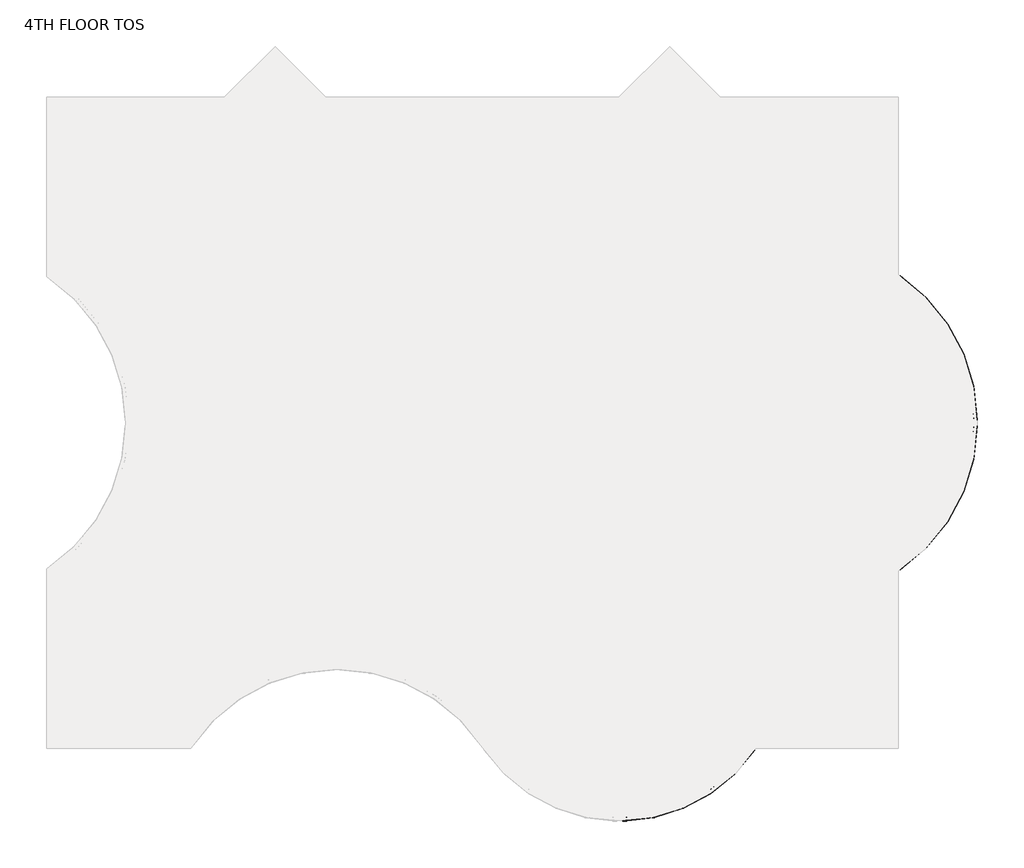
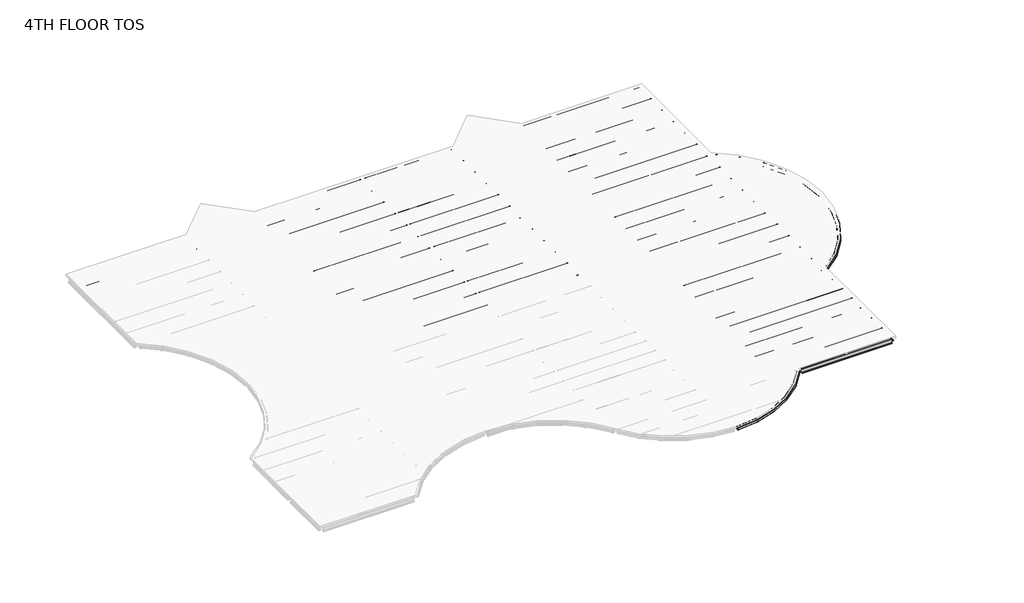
# One storey, part 2 of 2: 110 beams.
"""IFC4 building model written with IfcOpenShell, lengths in millimetres."""

from ifc_helpers import new_model, si_unit, origin, place, context, project, spatial, transform, mapped, element, save
from components import m_hss_square_hss203_2x203_2x9_5_28e91a4e, m_hss_square_hss203_2x203_2x9_5_f31329aa, m_hss_square_hss203_2x203_2x9_5_63507dff, ub_universal_beams_ub254x102x28_7812688d, ub_universal_beams_ub254x102x28_4a38c177, ub_universal_beams_ub305x165x40_c4d0385b, ub_universal_beams_ub305x165x40_19965e16, ub_universal_beams_ub305x165x40_d3abc31d, ub_universal_beams_ub305x165x40_0c73730f, ub_universal_beams_ub305x165x40_2a963f0c, ub_universal_beams_ub305x165x40_9ce7f2ee, ub_universal_beams_ub305x165x40_d184adfd, ub_universal_beams_ub305x165x40_bc7dc938, ub_universal_beams_ub305x165x40_b4233d25, ub_universal_beams_ub356x171x51_c708c058, ub_universal_beams_ub356x171x51_ef72dcdd, ub_universal_beams_ub356x171x51_10b3c54f, ub_universal_beams_ub356x171x51_4c9fd821, ub_universal_beams_ub356x171x51_d1a87c3c, ub_universal_beams_ub356x171x51_fa75724b, ub_universal_beams_ub356x171x51_68db896e, ub_universal_beams_ub356x171x51_c634c4a6, ub_universal_beams_ub356x171x51_995f1560, ub_universal_beams_ub356x171x51_dfc36663, ub_universal_beams_ub356x171x51_11d6b780, ub_universal_beams_ub356x171x51_76b2d20b, ub_universal_beams_ub356x171x51_145ecd4b, ub_universal_beams_ub356x171x51_c7dff8d2, ub_universal_beams_ub356x171x51_8a345439, ub_universal_beams_ub356x171x51_6da510e9, ub_universal_beams_ub356x171x51_e97f8d2e, ub_universal_beams_ub356x171x51_a38b99de, ub_universal_beams_ub356x171x51_d8f4cdde, ub_universal_beams_ub356x171x51_475301e6, ub_universal_beams_ub356x171x51_c03c70fb, ub_universal_beams_ub356x171x51_741bae58

model = new_model("IFC4")

# Units and contexts
model_context = context("Model", 3, world=origin())
ifc_project = project(units=[si_unit("LENGTHUNIT", "METRE", prefix="MILLI")], contexts=[model_context])

# Site, building, storey
site = spatial("IfcSite", under=ifc_project)
building = spatial("IfcBuilding", under=site)
storey = spatial("IfcBuildingStorey", under=building, Name="4TH FLOOR TOS", Elevation=18135.6)

# Beams
placement = place(None, origin())
m_hss_square_hss203_2x203_2x9_5_shape = m_hss_square_hss203_2x203_2x9_5_28e91a4e(model_context)
element("IfcBeam", 1, ObjectType="M_HSS Square : HSS203.2X203.2X9.5", at=placement, inside=storey, context=model_context, shape_type="MappedRepresentation", body=[
    mapped(m_hss_square_hss203_2x203_2x9_5_shape, transform((44027.575, 24539.575, 18034.1), x_axis=(0.8332810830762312, -0.5528495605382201, 0.0), y_axis=(0.5528495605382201, 0.8332810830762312, 0.0), z_axis=(0.0, 0.0, 1.0))),
])
m_hss_square_hss203_2x203_2x9_5_2_shape = m_hss_square_hss203_2x203_2x9_5_f31329aa(model_context)
element("IfcBeam", 2, ObjectType="M_HSS Square : HSS203.2X203.2X9.5", at=placement, inside=storey, context=model_context, shape_type="MappedRepresentation", body=[
    mapped(m_hss_square_hss203_2x203_2x9_5_2_shape, transform((44027.575, 9299.575, 18034.1), x_axis=(0.8332810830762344, 0.5528495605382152, 0.0), y_axis=(-0.5528495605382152, 0.8332810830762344, 0.0), z_axis=(0.0, 0.0, 1.0))),
])
m_hss_square_hss203_2x203_2x9_5_3_shape = m_hss_square_hss203_2x203_2x9_5_63507dff(model_context)
element("IfcBeam", 3, ObjectType="M_HSS Square : HSS203.2X203.2X9.5", at=placement, inside=storey, context=model_context, shape_type="MappedRepresentation", body=[
    mapped(m_hss_square_hss203_2x203_2x9_5_3_shape, transform((36716.575, 155.575, 18034.1), x_axis=(-0.5530174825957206, -0.8331696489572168, 0.0), y_axis=(0.8331696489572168, -0.5530174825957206, 0.0), z_axis=(0.0, 0.0, 1.0))),
])
ub_universal_beams_ub254x102x28_shape = ub_universal_beams_ub254x102x28_7812688d(model_context)
element("IfcBeam", 4, ObjectType="UB-Universal Beams : UB254x102x28", at=placement, inside=storey, context=model_context, shape_type="MappedRepresentation", body=[
    mapped(ub_universal_beams_ub254x102x28_shape, transform((10592.575, 34976.575, 18005.4), x_axis=(0.7071067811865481, 0.7071067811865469, 0.0), y_axis=(-0.7071067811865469, 0.7071067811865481, 0.0), z_axis=(0.0, 0.0, 1.0))),
])
element("IfcBeam", 5, ObjectType="UB-Universal Beams : UB254x102x28", at=placement, inside=storey, context=model_context, shape_type="MappedRepresentation", body=[
    mapped(ub_universal_beams_ub254x102x28_shape, transform((31004.575, 34976.575, 18005.4), x_axis=(0.7071067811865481, 0.7071067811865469, 0.0), y_axis=(-0.7071067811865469, 0.7071067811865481, 0.0), z_axis=(0.0, 0.0, 1.0))),
])
ub_universal_beams_ub254x102x28_2_shape = ub_universal_beams_ub254x102x28_4a38c177(model_context)
element("IfcBeam", 6, ObjectType="UB-Universal Beams : UB254x102x28", at=placement, inside=storey, context=model_context, shape_type="MappedRepresentation", body=[
    mapped(ub_universal_beams_ub254x102x28_2_shape, transform((13178.575, 34976.575, 18005.4), x_axis=(0.707106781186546, -0.707106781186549, 0.0), y_axis=(0.707106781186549, 0.707106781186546, 0.0), z_axis=(0.0, 0.0, 1.0))),
])
element("IfcBeam", 7, ObjectType="UB-Universal Beams : UB254x102x28", at=placement, inside=storey, context=model_context, shape_type="MappedRepresentation", body=[
    mapped(ub_universal_beams_ub254x102x28_2_shape, transform((33590.575, 34976.575, 18005.4), x_axis=(0.7071067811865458, -0.7071067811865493, 0.0), y_axis=(0.7071067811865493, 0.7071067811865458, 0.0), z_axis=(0.0, 0.0, 1.0))),
])
ub_universal_beams_ub305x165x40_shape = ub_universal_beams_ub305x165x40_c4d0385b(model_context)
element("IfcBeam", 8, ObjectType="UB-Universal Beams : UB305x165x40", at=placement, inside=storey, context=model_context, shape_type="MappedRepresentation", body=[
    mapped(ub_universal_beams_ub305x165x40_shape, transform((4727.575, 32159.575, 17983.9), x_axis=(1.0, 0.0, 0.0), y_axis=(0.0, 1.0, 0.0), z_axis=(0.0, 0.0, 1.0))),
])
element("IfcBeam", 9, ObjectType="UB-Universal Beams : UB305x165x40", at=placement, inside=storey, context=model_context, shape_type="MappedRepresentation", body=[
    mapped(ub_universal_beams_ub305x165x40_shape, transform((39455.575, 32159.575, 17983.9), x_axis=(1.0, 0.0, 0.0), y_axis=(0.0, 1.0, 0.0), z_axis=(0.0, 0.0, 1.0))),
])
element("IfcBeam", 10, ObjectType="UB-Universal Beams : UB305x165x40", at=placement, inside=storey, context=model_context, shape_type="MappedRepresentation", body=[
    mapped(ub_universal_beams_ub305x165x40_shape, transform((39455.575, 30635.575, 17983.9), x_axis=(1.0, 0.0, 0.0), y_axis=(0.0, 1.0, 0.0), z_axis=(0.0, 0.0, 1.0))),
])
element("IfcBeam", 11, ObjectType="UB-Universal Beams : UB305x165x40", at=placement, inside=storey, context=model_context, shape_type="MappedRepresentation", body=[
    mapped(ub_universal_beams_ub305x165x40_shape, transform((39455.575, 29111.575, 17983.9), x_axis=(1.0, 0.0, 0.0), y_axis=(0.0, 1.0, 0.0), z_axis=(0.0, 0.0, 1.0))),
])
element("IfcBeam", 12, ObjectType="UB-Universal Beams : UB305x165x40", at=placement, inside=storey, context=model_context, shape_type="MappedRepresentation", body=[
    mapped(ub_universal_beams_ub305x165x40_shape, transform((39455.575, 27587.575, 17983.9), x_axis=(1.0, 0.0, 0.0), y_axis=(0.0, 1.0, 0.0), z_axis=(0.0, 0.0, 1.0))),
])
element("IfcBeam", 13, ObjectType="UB-Universal Beams : UB305x165x40", at=placement, inside=storey, context=model_context, shape_type="MappedRepresentation", body=[
    mapped(ub_universal_beams_ub305x165x40_shape, transform((39455.575, 26063.575, 17983.9), x_axis=(1.0, 0.0, 0.0), y_axis=(0.0, 1.0, 0.0), z_axis=(0.0, 0.0, 1.0))),
])
element("IfcBeam", 14, ObjectType="UB-Universal Beams : UB305x165x40", at=placement, inside=storey, context=model_context, shape_type="MappedRepresentation", body=[
    mapped(ub_universal_beams_ub305x165x40_shape, transform((39455.575, 23015.575, 17983.9), x_axis=(1.0, 0.0, 0.0), y_axis=(0.0, 1.0, 0.0), z_axis=(0.0, 0.0, 1.0))),
])
element("IfcBeam", 15, ObjectType="UB-Universal Beams : UB305x165x40", at=placement, inside=storey, context=model_context, shape_type="MappedRepresentation", body=[
    mapped(ub_universal_beams_ub305x165x40_shape, transform((39455.575, 21491.575, 17983.9), x_axis=(1.0, 0.0, 0.0), y_axis=(0.0, 1.0, 0.0), z_axis=(0.0, 0.0, 1.0))),
])
element("IfcBeam", 16, ObjectType="UB-Universal Beams : UB305x165x40", at=placement, inside=storey, context=model_context, shape_type="MappedRepresentation", body=[
    mapped(ub_universal_beams_ub305x165x40_shape, transform((39455.575, 19967.575, 17983.9), x_axis=(1.0, 0.0, 0.0), y_axis=(0.0, 1.0, 0.0), z_axis=(0.0, 0.0, 1.0))),
])
element("IfcBeam", 17, ObjectType="UB-Universal Beams : UB305x165x40", at=placement, inside=storey, context=model_context, shape_type="MappedRepresentation", body=[
    mapped(ub_universal_beams_ub305x165x40_shape, transform((39455.575, 18443.575, 17983.9), x_axis=(1.0, 0.0, 0.0), y_axis=(0.0, 1.0, 0.0), z_axis=(0.0, 0.0, 1.0))),
])
element("IfcBeam", 18, ObjectType="UB-Universal Beams : UB305x165x40", at=placement, inside=storey, context=model_context, shape_type="MappedRepresentation", body=[
    mapped(ub_universal_beams_ub305x165x40_shape, transform((39455.575, 15395.575, 17983.9), x_axis=(1.0, 0.0, 0.0), y_axis=(0.0, 1.0, 0.0), z_axis=(0.0, 0.0, 1.0))),
])
element("IfcBeam", 19, ObjectType="UB-Universal Beams : UB305x165x40", at=placement, inside=storey, context=model_context, shape_type="MappedRepresentation", body=[
    mapped(ub_universal_beams_ub305x165x40_shape, transform((39455.575, 13871.575, 17983.9), x_axis=(1.0, 0.0, 0.0), y_axis=(0.0, 1.0, 0.0), z_axis=(0.0, 0.0, 1.0))),
])
element("IfcBeam", 20, ObjectType="UB-Universal Beams : UB305x165x40", at=placement, inside=storey, context=model_context, shape_type="MappedRepresentation", body=[
    mapped(ub_universal_beams_ub305x165x40_shape, transform((39455.575, 12347.575, 17983.9), x_axis=(1.0, 0.0, 0.0), y_axis=(0.0, 1.0, 0.0), z_axis=(0.0, 0.0, 1.0))),
])
element("IfcBeam", 21, ObjectType="UB-Universal Beams : UB305x165x40", at=placement, inside=storey, context=model_context, shape_type="MappedRepresentation", body=[
    mapped(ub_universal_beams_ub305x165x40_shape, transform((39455.575, 10823.575, 17983.9), x_axis=(1.0, 0.0, 0.0), y_axis=(0.0, 1.0, 0.0), z_axis=(0.0, 0.0, 1.0))),
])
element("IfcBeam", 22, ObjectType="UB-Universal Beams : UB305x165x40", at=placement, inside=storey, context=model_context, shape_type="MappedRepresentation", body=[
    mapped(ub_universal_beams_ub305x165x40_shape, transform((39455.575, 5508.325, 17983.9), x_axis=(-1.0, 0.0, 0.0), y_axis=(0.0, -1.0, 0.0), z_axis=(0.0, 0.0, 1.0))),
])
element("IfcBeam", 23, ObjectType="UB-Universal Beams : UB305x165x40", at=placement, inside=storey, context=model_context, shape_type="MappedRepresentation", body=[
    mapped(ub_universal_beams_ub305x165x40_shape, transform((39455.575, 6772.075, 17983.9), x_axis=(-1.0, 0.0, 0.0), y_axis=(0.0, -1.0, 0.0), z_axis=(0.0, 0.0, 1.0))),
])
element("IfcBeam", 24, ObjectType="UB-Universal Beams : UB305x165x40", at=placement, inside=storey, context=model_context, shape_type="MappedRepresentation", body=[
    mapped(ub_universal_beams_ub305x165x40_shape, transform((39455.575, 8035.825, 17983.9), x_axis=(-1.0, 0.0, 0.0), y_axis=(0.0, -1.0, 0.0), z_axis=(0.0, 0.0, 1.0))),
])
element("IfcBeam", 25, ObjectType="UB-Universal Beams : UB305x165x40", at=placement, inside=storey, context=model_context, shape_type="MappedRepresentation", body=[
    mapped(ub_universal_beams_ub305x165x40_shape, transform((39455.575, 1518.575, 17983.9), x_axis=(-1.0, 0.0, 0.0), y_axis=(0.0, -1.0, 0.0), z_axis=(0.0, 0.0, 1.0))),
])
element("IfcBeam", 26, ObjectType="UB-Universal Beams : UB305x165x40", at=placement, inside=storey, context=model_context, shape_type="MappedRepresentation", body=[
    mapped(ub_universal_beams_ub305x165x40_shape, transform((39455.575, 2881.575, 17983.9), x_axis=(-1.0, 0.0, 0.0), y_axis=(0.0, -1.0, 0.0), z_axis=(0.0, 0.0, 1.0))),
])
ub_universal_beams_ub305x165x40_2_shape = ub_universal_beams_ub305x165x40_19965e16(model_context)
element("IfcBeam", 27, ObjectType="UB-Universal Beams : UB305x165x40", at=placement, inside=storey, context=model_context, shape_type="MappedRepresentation", body=[
    mapped(ub_universal_beams_ub305x165x40_2_shape, transform((11885.575, 34803.325, 17983.9), x_axis=(1.0, 0.0, 0.0), y_axis=(0.0, 1.0, 0.0), z_axis=(0.0, 0.0, 1.0))),
])
element("IfcBeam", 28, ObjectType="UB-Universal Beams : UB305x165x40", at=placement, inside=storey, context=model_context, shape_type="MappedRepresentation", body=[
    mapped(ub_universal_beams_ub305x165x40_2_shape, transform((32297.575, 34803.325, 17983.9), x_axis=(1.0, 0.0, 0.0), y_axis=(0.0, 1.0, 0.0), z_axis=(0.0, 0.0, 1.0))),
])
ub_universal_beams_ub305x165x40_3_shape = ub_universal_beams_ub305x165x40_d3abc31d(model_context)
element("IfcBeam", 29, ObjectType="UB-Universal Beams : UB305x165x40", at=placement, inside=storey, context=model_context, shape_type="MappedRepresentation", body=[
    mapped(ub_universal_beams_ub305x165x40_3_shape, transform((11885.575, 33337.075, 17983.9), x_axis=(1.0, 0.0, 0.0), y_axis=(0.0, 1.0, 0.0), z_axis=(0.0, 0.0, 1.0))),
])
element("IfcBeam", 30, ObjectType="UB-Universal Beams : UB305x165x40", at=placement, inside=storey, context=model_context, shape_type="MappedRepresentation", body=[
    mapped(ub_universal_beams_ub305x165x40_3_shape, transform((11885.575, 31870.825, 17983.9), x_axis=(1.0, 0.0, 0.0), y_axis=(0.0, 1.0, 0.0), z_axis=(0.0, 0.0, 1.0))),
])
element("IfcBeam", 31, ObjectType="UB-Universal Beams : UB305x165x40", at=placement, inside=storey, context=model_context, shape_type="MappedRepresentation", body=[
    mapped(ub_universal_beams_ub305x165x40_3_shape, transform((11885.575, 30404.575, 17983.9), x_axis=(1.0, 0.0, 0.0), y_axis=(0.0, 1.0, 0.0), z_axis=(0.0, 0.0, 1.0))),
])
element("IfcBeam", 32, ObjectType="UB-Universal Beams : UB305x165x40", at=placement, inside=storey, context=model_context, shape_type="MappedRepresentation", body=[
    mapped(ub_universal_beams_ub305x165x40_3_shape, transform((32297.575, 33337.075, 17983.9), x_axis=(1.0, 0.0, 0.0), y_axis=(0.0, 1.0, 0.0), z_axis=(0.0, 0.0, 1.0))),
])
element("IfcBeam", 33, ObjectType="UB-Universal Beams : UB305x165x40", at=placement, inside=storey, context=model_context, shape_type="MappedRepresentation", body=[
    mapped(ub_universal_beams_ub305x165x40_3_shape, transform((32297.575, 31870.825, 17983.9), x_axis=(1.0, 0.0, 0.0), y_axis=(0.0, 1.0, 0.0), z_axis=(0.0, 0.0, 1.0))),
])
element("IfcBeam", 34, ObjectType="UB-Universal Beams : UB305x165x40", at=placement, inside=storey, context=model_context, shape_type="MappedRepresentation", body=[
    mapped(ub_universal_beams_ub305x165x40_3_shape, transform((32297.575, 30404.575, 17983.9), x_axis=(1.0, 0.0, 0.0), y_axis=(0.0, 1.0, 0.0), z_axis=(0.0, 0.0, 1.0))),
])
element("IfcBeam", 35, ObjectType="UB-Universal Beams : UB305x165x40", at=placement, inside=storey, context=model_context, shape_type="MappedRepresentation", body=[
    mapped(ub_universal_beams_ub305x165x40_3_shape, transform((32297.575, 28938.325, 17983.9), x_axis=(1.0, 0.0, 0.0), y_axis=(0.0, 1.0, 0.0), z_axis=(0.0, 0.0, 1.0))),
])
element("IfcBeam", 36, ObjectType="UB-Universal Beams : UB305x165x40", at=placement, inside=storey, context=model_context, shape_type="MappedRepresentation", body=[
    mapped(ub_universal_beams_ub305x165x40_3_shape, transform((32297.575, 27472.075, 17983.9), x_axis=(1.0, 0.0, 0.0), y_axis=(0.0, 1.0, 0.0), z_axis=(0.0, 0.0, 1.0))),
])
element("IfcBeam", 37, ObjectType="UB-Universal Beams : UB305x165x40", at=placement, inside=storey, context=model_context, shape_type="MappedRepresentation", body=[
    mapped(ub_universal_beams_ub305x165x40_3_shape, transform((32297.575, 26005.825, 17983.9), x_axis=(1.0, 0.0, 0.0), y_axis=(0.0, 1.0, 0.0), z_axis=(0.0, 0.0, 1.0))),
])
element("IfcBeam", 38, ObjectType="UB-Universal Beams : UB305x165x40", at=placement, inside=storey, context=model_context, shape_type="MappedRepresentation", body=[
    mapped(ub_universal_beams_ub305x165x40_3_shape, transform((32297.575, 1518.575, 17983.9), x_axis=(-1.0, 0.0, 0.0), y_axis=(0.0, -1.0, 0.0), z_axis=(0.0, 0.0, 1.0))),
])
element("IfcBeam", 39, ObjectType="UB-Universal Beams : UB305x165x40", at=placement, inside=storey, context=model_context, shape_type="MappedRepresentation", body=[
    mapped(ub_universal_beams_ub305x165x40_3_shape, transform((32297.575, 2881.575, 17983.9), x_axis=(-1.0, 0.0, 0.0), y_axis=(0.0, -1.0, 0.0), z_axis=(0.0, 0.0, 1.0))),
])
element("IfcBeam", 40, ObjectType="UB-Universal Beams : UB305x165x40", at=placement, inside=storey, context=model_context, shape_type="MappedRepresentation", body=[
    mapped(ub_universal_beams_ub305x165x40_3_shape, transform((32297.575, 5508.325, 17983.9), x_axis=(-1.0, 0.0, 0.0), y_axis=(0.0, -1.0, 0.0), z_axis=(0.0, 0.0, 1.0))),
])
element("IfcBeam", 41, ObjectType="UB-Universal Beams : UB305x165x40", at=placement, inside=storey, context=model_context, shape_type="MappedRepresentation", body=[
    mapped(ub_universal_beams_ub305x165x40_3_shape, transform((32297.575, 6772.075, 17983.9), x_axis=(-1.0, 0.0, 0.0), y_axis=(0.0, -1.0, 0.0), z_axis=(0.0, 0.0, 1.0))),
])
element("IfcBeam", 42, ObjectType="UB-Universal Beams : UB305x165x40", at=placement, inside=storey, context=model_context, shape_type="MappedRepresentation", body=[
    mapped(ub_universal_beams_ub305x165x40_3_shape, transform((32297.575, 8035.825, 17983.9), x_axis=(-1.0, 0.0, 0.0), y_axis=(0.0, -1.0, 0.0), z_axis=(0.0, 0.0, 1.0))),
])
element("IfcBeam", 43, ObjectType="UB-Universal Beams : UB305x165x40", at=placement, inside=storey, context=model_context, shape_type="MappedRepresentation", body=[
    mapped(ub_universal_beams_ub305x165x40_3_shape, transform((32297.575, 15395.575, 17983.9), x_axis=(1.0, 0.0, 0.0), y_axis=(0.0, 1.0, 0.0), z_axis=(0.0, 0.0, 1.0))),
])
element("IfcBeam", 44, ObjectType="UB-Universal Beams : UB305x165x40", at=placement, inside=storey, context=model_context, shape_type="MappedRepresentation", body=[
    mapped(ub_universal_beams_ub305x165x40_3_shape, transform((32297.575, 13871.575, 17983.9), x_axis=(1.0, 0.0, 0.0), y_axis=(0.0, 1.0, 0.0), z_axis=(0.0, 0.0, 1.0))),
])
element("IfcBeam", 45, ObjectType="UB-Universal Beams : UB305x165x40", at=placement, inside=storey, context=model_context, shape_type="MappedRepresentation", body=[
    mapped(ub_universal_beams_ub305x165x40_3_shape, transform((32297.575, 12347.575, 17983.9), x_axis=(1.0, 0.0, 0.0), y_axis=(0.0, 1.0, 0.0), z_axis=(0.0, 0.0, 1.0))),
])
element("IfcBeam", 46, ObjectType="UB-Universal Beams : UB305x165x40", at=placement, inside=storey, context=model_context, shape_type="MappedRepresentation", body=[
    mapped(ub_universal_beams_ub305x165x40_3_shape, transform((32297.575, 10823.575, 17983.9), x_axis=(1.0, 0.0, 0.0), y_axis=(0.0, 1.0, 0.0), z_axis=(0.0, 0.0, 1.0))),
])
element("IfcBeam", 47, ObjectType="UB-Universal Beams : UB305x165x40", at=placement, inside=storey, context=model_context, shape_type="MappedRepresentation", body=[
    mapped(ub_universal_beams_ub305x165x40_3_shape, transform((32297.575, 23015.575, 17983.9), x_axis=(1.0, 0.0, 0.0), y_axis=(0.0, 1.0, 0.0), z_axis=(0.0, 0.0, 1.0))),
])
element("IfcBeam", 48, ObjectType="UB-Universal Beams : UB305x165x40", at=placement, inside=storey, context=model_context, shape_type="MappedRepresentation", body=[
    mapped(ub_universal_beams_ub305x165x40_3_shape, transform((32297.575, 21491.575, 17983.9), x_axis=(1.0, 0.0, 0.0), y_axis=(0.0, 1.0, 0.0), z_axis=(0.0, 0.0, 1.0))),
])
element("IfcBeam", 49, ObjectType="UB-Universal Beams : UB305x165x40", at=placement, inside=storey, context=model_context, shape_type="MappedRepresentation", body=[
    mapped(ub_universal_beams_ub305x165x40_3_shape, transform((32297.575, 19967.575, 17983.9), x_axis=(1.0, 0.0, 0.0), y_axis=(0.0, 1.0, 0.0), z_axis=(0.0, 0.0, 1.0))),
])
element("IfcBeam", 50, ObjectType="UB-Universal Beams : UB305x165x40", at=placement, inside=storey, context=model_context, shape_type="MappedRepresentation", body=[
    mapped(ub_universal_beams_ub305x165x40_3_shape, transform((32297.575, 18443.575, 17983.9), x_axis=(1.0, 0.0, 0.0), y_axis=(0.0, 1.0, 0.0), z_axis=(0.0, 0.0, 1.0))),
])
ub_universal_beams_ub305x165x40_4_shape = ub_universal_beams_ub305x165x40_0c73730f(model_context)
element("IfcBeam", 51, ObjectType="UB-Universal Beams : UB305x165x40", at=placement, inside=storey, context=model_context, shape_type="MappedRepresentation", body=[
    mapped(ub_universal_beams_ub305x165x40_4_shape, transform((18591.075, 32159.575, 17983.9), x_axis=(1.0, 0.0, 0.0), y_axis=(0.0, 1.0, 0.0), z_axis=(0.0, 0.0, 1.0))),
])
element("IfcBeam", 52, ObjectType="UB-Universal Beams : UB305x165x40", at=placement, inside=storey, context=model_context, shape_type="MappedRepresentation", body=[
    mapped(ub_universal_beams_ub305x165x40_4_shape, transform((18591.075, 30635.575, 17983.9), x_axis=(1.0, 0.0, 0.0), y_axis=(0.0, 1.0, 0.0), z_axis=(0.0, 0.0, 1.0))),
])
element("IfcBeam", 53, ObjectType="UB-Universal Beams : UB305x165x40", at=placement, inside=storey, context=model_context, shape_type="MappedRepresentation", body=[
    mapped(ub_universal_beams_ub305x165x40_4_shape, transform((18591.075, 29111.575, 17983.9), x_axis=(1.0, 0.0, 0.0), y_axis=(0.0, 1.0, 0.0), z_axis=(0.0, 0.0, 1.0))),
])
element("IfcBeam", 54, ObjectType="UB-Universal Beams : UB305x165x40", at=placement, inside=storey, context=model_context, shape_type="MappedRepresentation", body=[
    mapped(ub_universal_beams_ub305x165x40_4_shape, transform((18591.075, 27587.575, 17983.9), x_axis=(1.0, 0.0, 0.0), y_axis=(0.0, 1.0, 0.0), z_axis=(0.0, 0.0, 1.0))),
])
element("IfcBeam", 55, ObjectType="UB-Universal Beams : UB305x165x40", at=placement, inside=storey, context=model_context, shape_type="MappedRepresentation", body=[
    mapped(ub_universal_beams_ub305x165x40_4_shape, transform((18591.075, 26063.575, 17983.9), x_axis=(1.0, 0.0, 0.0), y_axis=(0.0, 1.0, 0.0), z_axis=(0.0, 0.0, 1.0))),
])
element("IfcBeam", 56, ObjectType="UB-Universal Beams : UB305x165x40", at=placement, inside=storey, context=model_context, shape_type="MappedRepresentation", body=[
    mapped(ub_universal_beams_ub305x165x40_4_shape, transform((18591.075, 23015.575, 17983.9), x_axis=(1.0, 0.0, 0.0), y_axis=(0.0, 1.0, 0.0), z_axis=(0.0, 0.0, 1.0))),
])
element("IfcBeam", 57, ObjectType="UB-Universal Beams : UB305x165x40", at=placement, inside=storey, context=model_context, shape_type="MappedRepresentation", body=[
    mapped(ub_universal_beams_ub305x165x40_4_shape, transform((18591.075, 21491.575, 17983.9), x_axis=(1.0, 0.0, 0.0), y_axis=(0.0, 1.0, 0.0), z_axis=(0.0, 0.0, 1.0))),
])
element("IfcBeam", 58, ObjectType="UB-Universal Beams : UB305x165x40", at=placement, inside=storey, context=model_context, shape_type="MappedRepresentation", body=[
    mapped(ub_universal_beams_ub305x165x40_4_shape, transform((18591.075, 19967.575, 17983.9), x_axis=(1.0, 0.0, 0.0), y_axis=(0.0, 1.0, 0.0), z_axis=(0.0, 0.0, 1.0))),
])
element("IfcBeam", 59, ObjectType="UB-Universal Beams : UB305x165x40", at=placement, inside=storey, context=model_context, shape_type="MappedRepresentation", body=[
    mapped(ub_universal_beams_ub305x165x40_4_shape, transform((18591.075, 18443.575, 17983.9), x_axis=(1.0, 0.0, 0.0), y_axis=(0.0, 1.0, 0.0), z_axis=(0.0, 0.0, 1.0))),
])
ub_universal_beams_ub305x165x40_5_shape = ub_universal_beams_ub305x165x40_2a963f0c(model_context)
element("IfcBeam", 60, ObjectType="UB-Universal Beams : UB305x165x40", at=placement, inside=storey, context=model_context, shape_type="MappedRepresentation", body=[
    mapped(ub_universal_beams_ub305x165x40_5_shape, transform((26211.075, 32159.575, 17983.9), x_axis=(1.0, 0.0, 0.0), y_axis=(0.0, 1.0, 0.0), z_axis=(0.0, 0.0, 1.0))),
])
element("IfcBeam", 61, ObjectType="UB-Universal Beams : UB305x165x40", at=placement, inside=storey, context=model_context, shape_type="MappedRepresentation", body=[
    mapped(ub_universal_beams_ub305x165x40_5_shape, transform((26211.075, 30635.575, 17983.9), x_axis=(1.0, 0.0, 0.0), y_axis=(0.0, 1.0, 0.0), z_axis=(0.0, 0.0, 1.0))),
])
element("IfcBeam", 62, ObjectType="UB-Universal Beams : UB305x165x40", at=placement, inside=storey, context=model_context, shape_type="MappedRepresentation", body=[
    mapped(ub_universal_beams_ub305x165x40_5_shape, transform((26211.075, 29111.575, 17983.9), x_axis=(1.0, 0.0, 0.0), y_axis=(0.0, 1.0, 0.0), z_axis=(0.0, 0.0, 1.0))),
])
element("IfcBeam", 63, ObjectType="UB-Universal Beams : UB305x165x40", at=placement, inside=storey, context=model_context, shape_type="MappedRepresentation", body=[
    mapped(ub_universal_beams_ub305x165x40_5_shape, transform((26211.075, 27587.575, 17983.9), x_axis=(1.0, 0.0, 0.0), y_axis=(0.0, 1.0, 0.0), z_axis=(0.0, 0.0, 1.0))),
])
element("IfcBeam", 64, ObjectType="UB-Universal Beams : UB305x165x40", at=placement, inside=storey, context=model_context, shape_type="MappedRepresentation", body=[
    mapped(ub_universal_beams_ub305x165x40_5_shape, transform((26211.075, 26063.575, 17983.9), x_axis=(1.0, 0.0, 0.0), y_axis=(0.0, 1.0, 0.0), z_axis=(0.0, 0.0, 1.0))),
])
element("IfcBeam", 65, ObjectType="UB-Universal Beams : UB305x165x40", at=placement, inside=storey, context=model_context, shape_type="MappedRepresentation", body=[
    mapped(ub_universal_beams_ub305x165x40_5_shape, transform((26211.075, 23015.575, 17983.9), x_axis=(1.0, 0.0, 0.0), y_axis=(0.0, 1.0, 0.0), z_axis=(0.0, 0.0, 1.0))),
])
element("IfcBeam", 66, ObjectType="UB-Universal Beams : UB305x165x40", at=placement, inside=storey, context=model_context, shape_type="MappedRepresentation", body=[
    mapped(ub_universal_beams_ub305x165x40_5_shape, transform((26211.075, 21491.575, 17983.9), x_axis=(1.0, 0.0, 0.0), y_axis=(0.0, 1.0, 0.0), z_axis=(0.0, 0.0, 1.0))),
])
element("IfcBeam", 67, ObjectType="UB-Universal Beams : UB305x165x40", at=placement, inside=storey, context=model_context, shape_type="MappedRepresentation", body=[
    mapped(ub_universal_beams_ub305x165x40_5_shape, transform((26211.075, 19967.575, 17983.9), x_axis=(1.0, 0.0, 0.0), y_axis=(0.0, 1.0, 0.0), z_axis=(0.0, 0.0, 1.0))),
])
element("IfcBeam", 68, ObjectType="UB-Universal Beams : UB305x165x40", at=placement, inside=storey, context=model_context, shape_type="MappedRepresentation", body=[
    mapped(ub_universal_beams_ub305x165x40_5_shape, transform((26211.075, 18443.575, 17983.9), x_axis=(1.0, 0.0, 0.0), y_axis=(0.0, 1.0, 0.0), z_axis=(0.0, 0.0, 1.0))),
])
ub_universal_beams_ub305x165x40_6_shape = ub_universal_beams_ub305x165x40_9ce7f2ee(model_context)
element("IfcBeam", 69, ObjectType="UB-Universal Beams : UB305x165x40", at=placement, inside=storey, context=model_context, shape_type="MappedRepresentation", body=[
    mapped(ub_universal_beams_ub305x165x40_6_shape, transform((44907.9405309, 23015.575, 17983.9), x_axis=(1.0, 0.0, 0.0), y_axis=(0.0, 1.0, 0.0), z_axis=(0.0, 0.0, 1.0))),
])
element("IfcBeam", 70, ObjectType="UB-Universal Beams : UB305x165x40", at=placement, inside=storey, context=model_context, shape_type="MappedRepresentation", body=[
    mapped(ub_universal_beams_ub305x165x40_6_shape, transform((44907.9405309, 10823.575, 17983.9), x_axis=(1.0, 0.0, 0.0), y_axis=(0.0, 1.0, 0.0), z_axis=(0.0, 0.0, 1.0))),
])
ub_universal_beams_ub305x165x40_7_shape = ub_universal_beams_ub305x165x40_d184adfd(model_context)
element("IfcBeam", 71, ObjectType="UB-Universal Beams : UB305x165x40", at=placement, inside=storey, context=model_context, shape_type="MappedRepresentation", body=[
    mapped(ub_universal_beams_ub305x165x40_7_shape, transform((45459.5874928, 21491.575, 17983.9), x_axis=(1.0, 0.0, 0.0), y_axis=(0.0, 1.0, 0.0), z_axis=(0.0, 0.0, 1.0))),
])
element("IfcBeam", 72, ObjectType="UB-Universal Beams : UB305x165x40", at=placement, inside=storey, context=model_context, shape_type="MappedRepresentation", body=[
    mapped(ub_universal_beams_ub305x165x40_7_shape, transform((45459.5874928, 12347.575, 17983.9), x_axis=(1.0, 0.0, 0.0), y_axis=(0.0, 1.0, 0.0), z_axis=(0.0, 0.0, 1.0))),
])
ub_universal_beams_ub305x165x40_8_shape = ub_universal_beams_ub305x165x40_bc7dc938(model_context)
element("IfcBeam", 73, ObjectType="UB-Universal Beams : UB305x165x40", at=placement, inside=storey, context=model_context, shape_type="MappedRepresentation", body=[
    mapped(ub_universal_beams_ub305x165x40_8_shape, transform((45810.6153272, 19967.575, 17983.9), x_axis=(1.0, 0.0, 0.0), y_axis=(0.0, 1.0, 0.0), z_axis=(0.0, 0.0, 1.0))),
])
element("IfcBeam", 74, ObjectType="UB-Universal Beams : UB305x165x40", at=placement, inside=storey, context=model_context, shape_type="MappedRepresentation", body=[
    mapped(ub_universal_beams_ub305x165x40_8_shape, transform((45810.6153272, 13871.575, 17983.9), x_axis=(1.0, 0.0, 0.0), y_axis=(0.0, 1.0, 0.0), z_axis=(0.0, 0.0, 1.0))),
])
ub_universal_beams_ub305x165x40_9_shape = ub_universal_beams_ub305x165x40_b4233d25(model_context)
element("IfcBeam", 75, ObjectType="UB-Universal Beams : UB305x165x40", at=placement, inside=storey, context=model_context, shape_type="MappedRepresentation", body=[
    mapped(ub_universal_beams_ub305x165x40_9_shape, transform((46008.1318611, 18443.575, 17983.9), x_axis=(1.0, 0.0, 0.0), y_axis=(0.0, 1.0, 0.0), z_axis=(0.0, 0.0, 1.0))),
])
element("IfcBeam", 76, ObjectType="UB-Universal Beams : UB305x165x40", at=placement, inside=storey, context=model_context, shape_type="MappedRepresentation", body=[
    mapped(ub_universal_beams_ub305x165x40_9_shape, transform((46008.1318611, 15395.575, 17983.9), x_axis=(1.0, 0.0, 0.0), y_axis=(0.0, 1.0, 0.0), z_axis=(0.0, 0.0, 1.0))),
])
ub_universal_beams_ub356x171x51_shape = ub_universal_beams_ub356x171x51_c708c058(model_context)
element("IfcBeam", 77, ObjectType="UB-Universal Beams : UB356x171x51", at=placement, inside=storey, context=model_context, shape_type="MappedRepresentation", body=[
    mapped(ub_universal_beams_ub356x171x51_shape, transform((2200.075, 33683.575, 17958.1), x_axis=(1.0, 0.0, 0.0), y_axis=(0.0, 1.0, 0.0), z_axis=(0.0, 0.0, 1.0))),
])
ub_universal_beams_ub356x171x51_2_shape = ub_universal_beams_ub356x171x51_ef72dcdd(model_context)
element("IfcBeam", 78, ObjectType="UB-Universal Beams : UB356x171x51", at=placement, inside=storey, context=model_context, shape_type="MappedRepresentation", body=[
    mapped(ub_universal_beams_ub356x171x51_2_shape, transform((6772.075, 33683.575, 17958.1), x_axis=(1.0, 0.0, 0.0), y_axis=(0.0, 1.0, 0.0), z_axis=(0.0, 0.0, 1.0))),
])
element("IfcBeam", 79, ObjectType="UB-Universal Beams : UB356x171x51", at=placement, inside=storey, context=model_context, shape_type="MappedRepresentation", body=[
    mapped(ub_universal_beams_ub356x171x51_2_shape, transform((34883.575, 6772.075, 17958.1), x_axis=(0.0, -1.0, 0.0), y_axis=(1.0, 0.0, 0.0), z_axis=(0.0, 0.0, 1.0))),
])
ub_universal_beams_ub356x171x51_3_shape = ub_universal_beams_ub356x171x51_10b3c54f(model_context)
element("IfcBeam", 80, ObjectType="UB-Universal Beams : UB356x171x51", at=placement, inside=storey, context=model_context, shape_type="MappedRepresentation", body=[
    mapped(ub_universal_beams_ub356x171x51_3_shape, transform((18591.075, 33683.575, 17958.1), x_axis=(1.0, 0.0, 0.0), y_axis=(0.0, 1.0, 0.0), z_axis=(0.0, 0.0, 1.0))),
])
ub_universal_beams_ub356x171x51_4_shape = ub_universal_beams_ub356x171x51_4c9fd821(model_context)
element("IfcBeam", 81, ObjectType="UB-Universal Beams : UB356x171x51", at=placement, inside=storey, context=model_context, shape_type="MappedRepresentation", body=[
    mapped(ub_universal_beams_ub356x171x51_4_shape, transform((26211.075, 33683.575, 17958.1), x_axis=(1.0, 0.0, 0.0), y_axis=(0.0, 1.0, 0.0), z_axis=(0.0, 0.0, 1.0))),
])
ub_universal_beams_ub356x171x51_5_shape = ub_universal_beams_ub356x171x51_d1a87c3c(model_context)
element("IfcBeam", 82, ObjectType="UB-Universal Beams : UB356x171x51", at=placement, inside=storey, context=model_context, shape_type="MappedRepresentation", body=[
    mapped(ub_universal_beams_ub356x171x51_5_shape, transform((39455.575, 33683.575, 17958.1), x_axis=(1.0, 0.0, 0.0), y_axis=(0.0, 1.0, 0.0), z_axis=(0.0, 0.0, 1.0))),
])
ub_universal_beams_ub356x171x51_6_shape = ub_universal_beams_ub356x171x51_fa75724b(model_context)
element("IfcBeam", 83, ObjectType="UB-Universal Beams : UB356x171x51", at=placement, inside=storey, context=model_context, shape_type="MappedRepresentation", body=[
    mapped(ub_universal_beams_ub356x171x51_6_shape, transform((44027.575, 29111.575, 17958.1), x_axis=(0.0, -1.0, 0.0), y_axis=(1.0, 0.0, 0.0), z_axis=(0.0, 0.0, 1.0))),
])
ub_universal_beams_ub356x171x51_7_shape = ub_universal_beams_ub356x171x51_68db896e(model_context)
element("IfcBeam", 84, ObjectType="UB-Universal Beams : UB356x171x51", at=placement, inside=storey, context=model_context, shape_type="MappedRepresentation", body=[
    mapped(ub_universal_beams_ub356x171x51_7_shape, transform((44027.575, 6772.075, 17958.1), x_axis=(0.0, -1.0, 0.0), y_axis=(1.0, 0.0, 0.0), z_axis=(0.0, 0.0, 1.0))),
])
ub_universal_beams_ub356x171x51_8_shape = ub_universal_beams_ub356x171x51_c634c4a6(model_context)
element("IfcBeam", 85, ObjectType="UB-Universal Beams : UB356x171x51", at=placement, inside=storey, context=model_context, shape_type="MappedRepresentation", body=[
    mapped(ub_universal_beams_ub356x171x51_8_shape, transform((44027.575, 2200.075, 17958.1), x_axis=(0.0, -1.0, 0.0), y_axis=(1.0, 0.0, 0.0), z_axis=(0.0, 0.0, 1.0))),
])
ub_universal_beams_ub356x171x51_9_shape = ub_universal_beams_ub356x171x51_995f1560(model_context)
element("IfcBeam", 86, ObjectType="UB-Universal Beams : UB356x171x51", at=placement, inside=storey, context=model_context, shape_type="MappedRepresentation", body=[
    mapped(ub_universal_beams_ub356x171x51_9_shape, transform((40372.075, 155.575, 17958.1), x_axis=(-1.0, 0.0, 0.0), y_axis=(0.0, -1.0, 0.0), z_axis=(0.0, 0.0, 1.0))),
])
ub_universal_beams_ub356x171x51_10_shape = ub_universal_beams_ub356x171x51_dfc36663(model_context)
element("IfcBeam", 87, ObjectType="UB-Universal Beams : UB356x171x51", at=placement, inside=storey, context=model_context, shape_type="MappedRepresentation", body=[
    mapped(ub_universal_beams_ub356x171x51_10_shape, transform((46072.075, 16919.575, 17958.1), x_axis=(1.0, 0.0, 0.0), y_axis=(0.0, 1.0, 0.0), z_axis=(0.0, 0.0, 1.0))),
])
ub_universal_beams_ub356x171x51_11_shape = ub_universal_beams_ub356x171x51_11d6b780(model_context)
element("IfcBeam", 88, ObjectType="UB-Universal Beams : UB356x171x51", at=placement, inside=storey, context=model_context, shape_type="MappedRepresentation", body=[
    mapped(ub_universal_beams_ub356x171x51_11_shape, transform((32297.575, 24539.575, 17958.1), x_axis=(1.0, 0.0, 0.0), y_axis=(0.0, 1.0, 0.0), z_axis=(0.0, 0.0, 1.0))),
])
element("IfcBeam", 89, ObjectType="UB-Universal Beams : UB356x171x51", at=placement, inside=storey, context=model_context, shape_type="MappedRepresentation", body=[
    mapped(ub_universal_beams_ub356x171x51_11_shape, transform((32297.575, 9299.575, 17958.1), x_axis=(-1.0, 0.0, 0.0), y_axis=(0.0, -1.0, 0.0), z_axis=(0.0, 0.0, 1.0))),
])
element("IfcBeam", 90, ObjectType="UB-Universal Beams : UB356x171x51", at=placement, inside=storey, context=model_context, shape_type="MappedRepresentation", body=[
    mapped(ub_universal_beams_ub356x171x51_11_shape, transform((32297.575, 16919.575, 17958.1), x_axis=(1.0, 0.0, 0.0), y_axis=(0.0, 1.0, 0.0), z_axis=(0.0, 0.0, 1.0))),
])
element("IfcBeam", 91, ObjectType="UB-Universal Beams : UB356x171x51", at=placement, inside=storey, context=model_context, shape_type="MappedRepresentation", body=[
    mapped(ub_universal_beams_ub356x171x51_11_shape, transform((32297.575, 4244.575, 17958.1), x_axis=(-1.0, 0.0, 0.0), y_axis=(0.0, -1.0, 0.0), z_axis=(0.0, 0.0, 1.0))),
])
ub_universal_beams_ub356x171x51_12_shape = ub_universal_beams_ub356x171x51_76b2d20b(model_context)
element("IfcBeam", 92, ObjectType="UB-Universal Beams : UB356x171x51", at=placement, inside=storey, context=model_context, shape_type="MappedRepresentation", body=[
    mapped(ub_universal_beams_ub356x171x51_12_shape, transform((18591.075, 24539.575, 17958.1), x_axis=(1.0, 0.0, 0.0), y_axis=(0.0, 1.0, 0.0), z_axis=(0.0, 0.0, 1.0))),
])
element("IfcBeam", 93, ObjectType="UB-Universal Beams : UB356x171x51", at=placement, inside=storey, context=model_context, shape_type="MappedRepresentation", body=[
    mapped(ub_universal_beams_ub356x171x51_12_shape, transform((18591.075, 16919.575, 17958.1), x_axis=(1.0, 0.0, 0.0), y_axis=(0.0, 1.0, 0.0), z_axis=(0.0, 0.0, 1.0))),
])
ub_universal_beams_ub356x171x51_13_shape = ub_universal_beams_ub356x171x51_145ecd4b(model_context)
element("IfcBeam", 94, ObjectType="UB-Universal Beams : UB356x171x51", at=placement, inside=storey, context=model_context, shape_type="MappedRepresentation", body=[
    mapped(ub_universal_beams_ub356x171x51_13_shape, transform((26211.075, 24539.575, 17958.1), x_axis=(1.0, 0.0, 0.0), y_axis=(0.0, 1.0, 0.0), z_axis=(0.0, 0.0, 1.0))),
])
element("IfcBeam", 95, ObjectType="UB-Universal Beams : UB356x171x51", at=placement, inside=storey, context=model_context, shape_type="MappedRepresentation", body=[
    mapped(ub_universal_beams_ub356x171x51_13_shape, transform((26211.075, 16919.575, 17958.1), x_axis=(1.0, 0.0, 0.0), y_axis=(0.0, 1.0, 0.0), z_axis=(0.0, 0.0, 1.0))),
])
ub_universal_beams_ub356x171x51_14_shape = ub_universal_beams_ub356x171x51_c7dff8d2(model_context)
element("IfcBeam", 96, ObjectType="UB-Universal Beams : UB356x171x51", at=placement, inside=storey, context=model_context, shape_type="MappedRepresentation", body=[
    mapped(ub_universal_beams_ub356x171x51_14_shape, transform((39455.575, 24539.575, 17958.1), x_axis=(1.0, 0.0, 0.0), y_axis=(0.0, 1.0, 0.0), z_axis=(0.0, 0.0, 1.0))),
])
ub_universal_beams_ub356x171x51_15_shape = ub_universal_beams_ub356x171x51_8a345439(model_context)
element("IfcBeam", 97, ObjectType="UB-Universal Beams : UB356x171x51", at=placement, inside=storey, context=model_context, shape_type="MappedRepresentation", body=[
    mapped(ub_universal_beams_ub356x171x51_15_shape, transform((44027.575, 20729.575, 17958.1), x_axis=(0.0, -1.0, 0.0), y_axis=(1.0, 0.0, 0.0), z_axis=(0.0, 0.0, 1.0))),
])
ub_universal_beams_ub356x171x51_16_shape = ub_universal_beams_ub356x171x51_6da510e9(model_context)
element("IfcBeam", 98, ObjectType="UB-Universal Beams : UB356x171x51", at=placement, inside=storey, context=model_context, shape_type="MappedRepresentation", body=[
    mapped(ub_universal_beams_ub356x171x51_16_shape, transform((44027.575, 13109.575, 17958.1), x_axis=(0.0, -1.0, 0.0), y_axis=(1.0, 0.0, 0.0), z_axis=(0.0, 0.0, 1.0))),
])
ub_universal_beams_ub356x171x51_17_shape = ub_universal_beams_ub356x171x51_e97f8d2e(model_context)
element("IfcBeam", 99, ObjectType="UB-Universal Beams : UB356x171x51", at=placement, inside=storey, context=model_context, shape_type="MappedRepresentation", body=[
    mapped(ub_universal_beams_ub356x171x51_17_shape, transform((39455.575, 9299.575, 17958.1), x_axis=(-1.0, 0.0, 0.0), y_axis=(0.0, -1.0, 0.0), z_axis=(0.0, 0.0, 1.0))),
])
ub_universal_beams_ub356x171x51_18_shape = ub_universal_beams_ub356x171x51_a38b99de(model_context)
element("IfcBeam", 100, ObjectType="UB-Universal Beams : UB356x171x51", at=placement, inside=storey, context=model_context, shape_type="MappedRepresentation", body=[
    mapped(ub_universal_beams_ub356x171x51_18_shape, transform((34883.575, 20729.575, 17958.1), x_axis=(0.0, -1.0, 0.0), y_axis=(1.0, 0.0, 0.0), z_axis=(0.0, 0.0, 1.0))),
])
element("IfcBeam", 101, ObjectType="UB-Universal Beams : UB356x171x51", at=placement, inside=storey, context=model_context, shape_type="MappedRepresentation", body=[
    mapped(ub_universal_beams_ub356x171x51_18_shape, transform((34883.575, 13109.575, 17958.1), x_axis=(0.0, -1.0, 0.0), y_axis=(1.0, 0.0, 0.0), z_axis=(0.0, 0.0, 1.0))),
])
element("IfcBeam", 102, ObjectType="UB-Universal Beams : UB356x171x51", at=placement, inside=storey, context=model_context, shape_type="MappedRepresentation", body=[
    mapped(ub_universal_beams_ub356x171x51_18_shape, transform((22710.575, 20729.575, 17958.1), x_axis=(0.0, -1.0, 0.0), y_axis=(1.0, 0.0, 0.0), z_axis=(0.0, 0.0, 1.0))),
])
element("IfcBeam", 103, ObjectType="UB-Universal Beams : UB356x171x51", at=placement, inside=storey, context=model_context, shape_type="MappedRepresentation", body=[
    mapped(ub_universal_beams_ub356x171x51_18_shape, transform((29711.575, 20729.575, 17958.1), x_axis=(0.0, 1.0, 0.0), y_axis=(-1.0, 0.0, 0.0), z_axis=(0.0, 0.0, 1.0))),
])
ub_universal_beams_ub356x171x51_19_shape = ub_universal_beams_ub356x171x51_d8f4cdde(model_context)
element("IfcBeam", 104, ObjectType="UB-Universal Beams : UB356x171x51", at=placement, inside=storey, context=model_context, shape_type="MappedRepresentation", body=[
    mapped(ub_universal_beams_ub356x171x51_19_shape, transform((29711.575, 29111.575, 17958.1), x_axis=(0.0, 1.0, 0.0), y_axis=(-1.0, 0.0, 0.0), z_axis=(0.0, 0.0, 1.0))),
])
ub_universal_beams_ub356x171x51_20_shape = ub_universal_beams_ub356x171x51_475301e6(model_context)
element("IfcBeam", 105, ObjectType="UB-Universal Beams : UB356x171x51", at=placement, inside=storey, context=model_context, shape_type="MappedRepresentation", body=[
    mapped(ub_universal_beams_ub356x171x51_20_shape, transform((39455.575, 16919.575, 17958.1), x_axis=(1.0, 0.0, 0.0), y_axis=(0.0, 1.0, 0.0), z_axis=(0.0, 0.0, 1.0))),
])
element("IfcBeam", 106, ObjectType="UB-Universal Beams : UB356x171x51", at=placement, inside=storey, context=model_context, shape_type="MappedRepresentation", body=[
    mapped(ub_universal_beams_ub356x171x51_20_shape, transform((39455.575, 4244.575, 17958.1), x_axis=(-1.0, 0.0, 0.0), y_axis=(0.0, -1.0, 0.0), z_axis=(0.0, 0.0, 1.0))),
])
ub_universal_beams_ub356x171x51_21_shape = ub_universal_beams_ub356x171x51_c03c70fb(model_context)
element("IfcBeam", 107, ObjectType="UB-Universal Beams : UB356x171x51", at=placement, inside=storey, context=model_context, shape_type="MappedRepresentation", body=[
    mapped(ub_universal_beams_ub356x171x51_21_shape, transform((34883.575, 29111.575, 17958.1), x_axis=(0.0, -1.0, 0.0), y_axis=(1.0, 0.0, 0.0), z_axis=(0.0, 0.0, 1.0))),
])
element("IfcBeam", 108, ObjectType="UB-Universal Beams : UB356x171x51", at=placement, inside=storey, context=model_context, shape_type="MappedRepresentation", body=[
    mapped(ub_universal_beams_ub356x171x51_21_shape, transform((14471.575, 29111.575, 17958.1), x_axis=(0.0, -1.0, 0.0), y_axis=(1.0, 0.0, 0.0), z_axis=(0.0, 0.0, 1.0))),
])
element("IfcBeam", 109, ObjectType="UB-Universal Beams : UB356x171x51", at=placement, inside=storey, context=model_context, shape_type="MappedRepresentation", body=[
    mapped(ub_universal_beams_ub356x171x51_21_shape, transform((22710.575, 29111.575, 17958.1), x_axis=(0.0, -1.0, 0.0), y_axis=(1.0, 0.0, 0.0), z_axis=(0.0, 0.0, 1.0))),
])
ub_universal_beams_ub356x171x51_22_shape = ub_universal_beams_ub356x171x51_741bae58(model_context)
element("IfcBeam", 110, ObjectType="UB-Universal Beams : UB356x171x51", at=placement, inside=storey, context=model_context, shape_type="MappedRepresentation", body=[
    mapped(ub_universal_beams_ub356x171x51_22_shape, transform((34883.575, 2200.075, 17958.1), x_axis=(0.0, -1.0, 0.0), y_axis=(1.0, 0.0, 0.0), z_axis=(0.0, 0.0, 1.0))),
])

save(model, "model.ifc")
